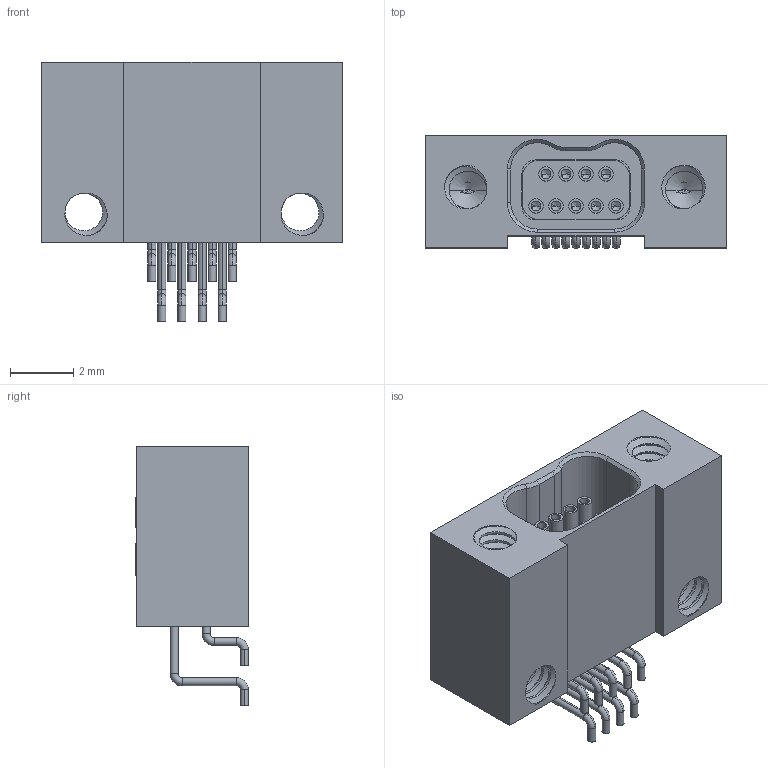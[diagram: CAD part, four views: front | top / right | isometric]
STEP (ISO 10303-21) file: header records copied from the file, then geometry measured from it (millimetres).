
FILE_DESCRIPTION (( 'STEP AP214' ), '1' );
FILE_NAME ('A29100-009 REV K.STEP', '2015-11-04T20:57:16', ( '' ), ( '' ), 'SwSTEP 2.0', 'SolidWorks 2015', '' );
FILE_SCHEMA (( 'AUTOMOTIVE_DESIGN' ));
Length unit declared in the file: inch
Products named in the file (1): A29100-009
Bounding box: 9.53 x 3.58 x 8.23 mm (x, y, z)
Volume: 136.5 mm3; surface area: 437.3 mm2
Topology: 1 solids, 3 shells, 488 faces, 1268 edges, 806 vertices
Faces by surface type: cylinder 180, plane 174, bspline 62, torus 36, cone 36
Entity records: 25797 total; most frequent: CARTESIAN_POINT 13621, ORIENTED_EDGE 2496, DIRECTION 2095, EDGE_CURVE 1248, VERTEX_POINT 806, AXIS2_PLACEMENT_3D 722, VECTOR 651, LINE 651
